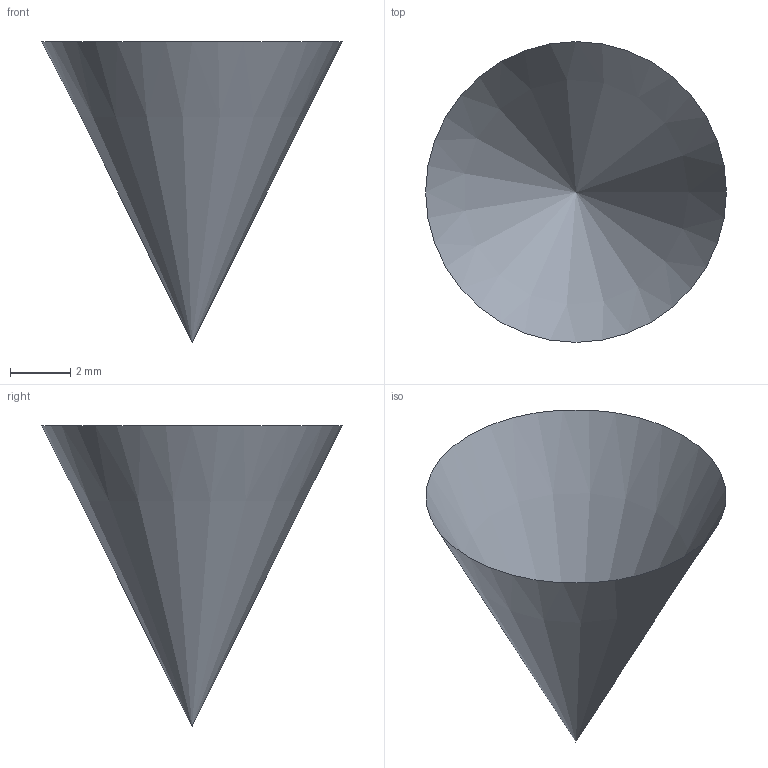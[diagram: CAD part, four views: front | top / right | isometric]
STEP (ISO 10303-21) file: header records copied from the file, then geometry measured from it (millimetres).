
FILE_DESCRIPTION(('BRL-CAD AP214 vertex-loop conical face fixture'),'2;1');
FILE_NAME('ap214_vertex_loop_conical_face.stp','2026-08-03T00:00:00',('BRL-CAD'),('BRL-CAD'),'','','');
FILE_SCHEMA(('AUTOMOTIVE_DESIGN { 1 0 10303 214 3 1 1 1 }'));
Length unit declared in the file: millimetre
Products named in the file (1): vertex_loop_conical_face
Bounding box: 10 x 10 x 10 mm (x, y, z)
Surface area: 175.6 mm2 (no closed solid volume)
Topology: 0 solids, 1 shells, 1 faces, 3 edges, 2 vertices
Faces by surface type: cone 1
Entity records: 31 total; most frequent: CARTESIAN_POINT 3, VERTEX_POINT 2, DIRECTION 2, AXIS2_PLACEMENT_3D 1, CIRCLE 1, EDGE_CURVE 1, ORIENTED_EDGE 1, EDGE_LOOP 1
